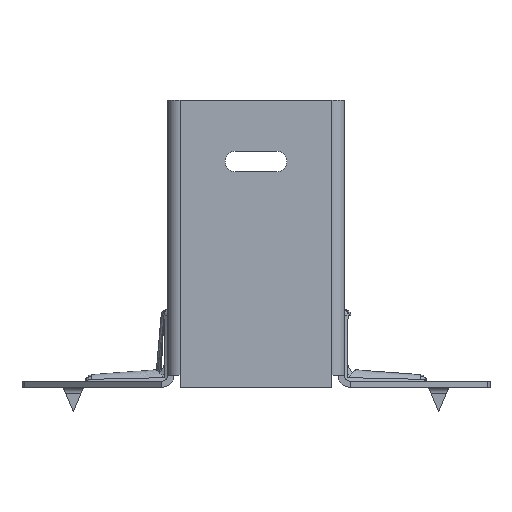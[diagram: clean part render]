
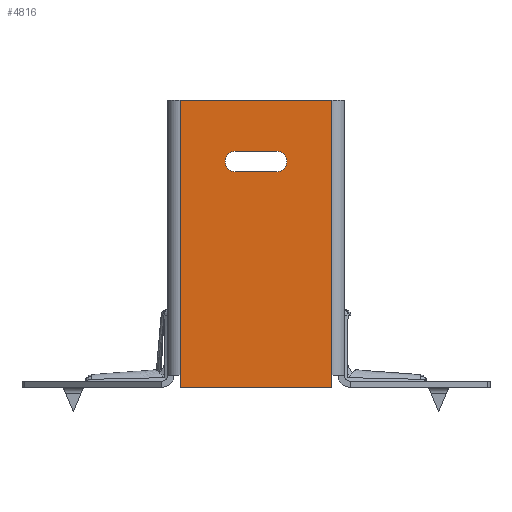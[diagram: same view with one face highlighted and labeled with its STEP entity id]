
A CAD part, front view. The second image highlights one B-rep face of the part: STEP entity #4816.
In plain terms, the highlighted planar face has unit normal (0, -1, 0).
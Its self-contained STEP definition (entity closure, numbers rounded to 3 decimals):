
#43 = ORIENTED_EDGE ( 'NONE', *, *, #26548, .F. ) ;
#125 = CARTESIAN_POINT ( 'NONE',  ( 18.5, -55.75, 38. ) ) ;
#126 = VERTEX_POINT ( 'NONE', #13253 ) ;
#431 = ORIENTED_EDGE ( 'NONE', *, *, #6647, .F. ) ;
#569 = CARTESIAN_POINT ( 'NONE',  ( -10., -55.75, 38. ) ) ;
#716 = EDGE_CURVE ( 'NONE', #2764, #23691, #18921, .T. ) ;
#862 = AXIS2_PLACEMENT_3D ( 'NONE', #11334, #6828, #2756 ) ;
#1087 = EDGE_CURVE ( 'NONE', #16044, #8542, #16107, .T. ) ;
#1426 = CARTESIAN_POINT ( 'NONE',  ( -10., -55.75, -32. ) ) ;
#1943 = LINE ( 'NONE', #2049, #18049 ) ;
#2049 = CARTESIAN_POINT ( 'NONE',  ( -10., -55.75, 20.5 ) ) ;
#2498 = AXIS2_PLACEMENT_3D ( 'NONE', #14911, #21258, #3601 ) ;
#2756 = DIRECTION ( 'NONE',  ( 1., 0., 0. ) ) ;
#2764 = VERTEX_POINT ( 'NONE', #9063 ) ;
#3601 = DIRECTION ( 'NONE',  ( 1., 0., 0. ) ) ;
#3771 = CARTESIAN_POINT ( 'NONE',  ( -18.5, -55.75, -32. ) ) ;
#4185 = ORIENTED_EDGE ( 'NONE', *, *, #1087, .F. ) ;
#4249 = VECTOR ( 'NONE', #8463, 1000. ) ;
#4342 = ORIENTED_EDGE ( 'NONE', *, *, #26890, .F. ) ;
#4789 = EDGE_CURVE ( 'NONE', #21484, #10904, #19532, .T. ) ;
#4816 = ADVANCED_FACE ( 'NONE', ( #13913, #12516 ), #15554, .F. ) ;
#5296 = AXIS2_PLACEMENT_3D ( 'NONE', #23957, #24157, #8121 ) ;
#6437 = CARTESIAN_POINT ( 'NONE',  ( 5., -55.75, 25.5 ) ) ;
#6633 = CARTESIAN_POINT ( 'NONE',  ( 18.5, -55.75, 3. ) ) ;
#6647 = EDGE_CURVE ( 'NONE', #8542, #23020, #1943, .T. ) ;
#6828 = DIRECTION ( 'NONE',  ( 0., 1., 0. ) ) ;
#6944 = CARTESIAN_POINT ( 'NONE',  ( 18.5, -55.75, 3. ) ) ;
#7250 = VECTOR ( 'NONE', #22097, 1000. ) ;
#7524 = CARTESIAN_POINT ( 'NONE',  ( -18.5, -55.75, 3. ) ) ;
#7800 = EDGE_CURVE ( 'NONE', #16499, #2764, #26761, .T. ) ;
#7916 = DIRECTION ( 'NONE',  ( 0., 0., 1. ) ) ;
#8121 = DIRECTION ( 'NONE',  ( -1., 0., 0. ) ) ;
#8463 = DIRECTION ( 'NONE',  ( -1., 0., 0. ) ) ;
#8542 = VERTEX_POINT ( 'NONE', #14425 ) ;
#9063 = CARTESIAN_POINT ( 'NONE',  ( -18.5, -55.75, -29. ) ) ;
#10167 = LINE ( 'NONE', #25967, #4249 ) ;
#10491 = DIRECTION ( 'NONE',  ( -1., 0., 0. ) ) ;
#10904 = VERTEX_POINT ( 'NONE', #23931 ) ;
#10980 = VECTOR ( 'NONE', #25350, 1000. ) ;
#11334 = CARTESIAN_POINT ( 'NONE',  ( -10., -55.75, 3. ) ) ;
#12516 = FACE_BOUND ( 'NONE', #27655, .T. ) ;
#12577 = EDGE_CURVE ( 'NONE', #26084, #16044, #10167, .T. ) ;
#13253 = CARTESIAN_POINT ( 'NONE',  ( 18.5, -55.75, -32. ) ) ;
#13913 = FACE_OUTER_BOUND ( 'NONE', #20240, .T. ) ;
#14425 = CARTESIAN_POINT ( 'NONE',  ( -5., -55.75, 20.5 ) ) ;
#14480 = CARTESIAN_POINT ( 'NONE',  ( -18.5, -55.75, 3. ) ) ;
#14858 = VECTOR ( 'NONE', #7916, 1000. ) ;
#14911 = CARTESIAN_POINT ( 'NONE',  ( -5., -55.75, 23. ) ) ;
#14989 = ORIENTED_EDGE ( 'NONE', *, *, #7800, .F. ) ;
#15554 = PLANE ( 'NONE',  #862 ) ;
#16044 = VERTEX_POINT ( 'NONE', #20488 ) ;
#16107 = CIRCLE ( 'NONE', #2498, 2.5 ) ;
#16446 = DIRECTION ( 'NONE',  ( 0., 0., -1. ) ) ;
#16499 = VERTEX_POINT ( 'NONE', #3771 ) ;
#17043 = CIRCLE ( 'NONE', #5296, 2.5 ) ;
#18049 = VECTOR ( 'NONE', #26574, 1000. ) ;
#18858 = ORIENTED_EDGE ( 'NONE', *, *, #716, .F. ) ;
#18921 = LINE ( 'NONE', #7524, #26966 ) ;
#19016 = ORIENTED_EDGE ( 'NONE', *, *, #28906, .F. ) ;
#19024 = CARTESIAN_POINT ( 'NONE',  ( -18.5, -55.75, 38. ) ) ;
#19413 = LINE ( 'NONE', #1426, #25003 ) ;
#19532 = LINE ( 'NONE', #6633, #7250 ) ;
#20240 = EDGE_LOOP ( 'NONE', ( #4342, #24493, #19016, #18858, #14989, #43 ) ) ;
#20381 = CARTESIAN_POINT ( 'NONE',  ( 5., -55.75, 20.5 ) ) ;
#20400 = ORIENTED_EDGE ( 'NONE', *, *, #12577, .F. ) ;
#20488 = CARTESIAN_POINT ( 'NONE',  ( -5., -55.75, 25.5 ) ) ;
#21258 = DIRECTION ( 'NONE',  ( 0., -1., 0. ) ) ;
#21484 = VERTEX_POINT ( 'NONE', #125 ) ;
#22097 = DIRECTION ( 'NONE',  ( 0., 0., -1. ) ) ;
#22161 = EDGE_CURVE ( 'NONE', #23020, #26084, #17043, .T. ) ;
#23020 = VERTEX_POINT ( 'NONE', #20381 ) ;
#23691 = VERTEX_POINT ( 'NONE', #19024 ) ;
#23931 = CARTESIAN_POINT ( 'NONE',  ( 18.5, -55.75, -29. ) ) ;
#23957 = CARTESIAN_POINT ( 'NONE',  ( 5., -55.75, 23. ) ) ;
#24157 = DIRECTION ( 'NONE',  ( 0., -1., 0. ) ) ;
#24493 = ORIENTED_EDGE ( 'NONE', *, *, #4789, .F. ) ;
#25003 = VECTOR ( 'NONE', #10491, 1000. ) ;
#25350 = DIRECTION ( 'NONE',  ( 1., 0., 0. ) ) ;
#25967 = CARTESIAN_POINT ( 'NONE',  ( -10., -55.75, 25.5 ) ) ;
#26084 = VERTEX_POINT ( 'NONE', #6437 ) ;
#26387 = LINE ( 'NONE', #6944, #28134 ) ;
#26548 = EDGE_CURVE ( 'NONE', #126, #16499, #19413, .T. ) ;
#26574 = DIRECTION ( 'NONE',  ( 1., 0., 0. ) ) ;
#26761 = LINE ( 'NONE', #14480, #14858 ) ;
#26890 = EDGE_CURVE ( 'NONE', #10904, #126, #26387, .T. ) ;
#26966 = VECTOR ( 'NONE', #27496, 1000. ) ;
#27496 = DIRECTION ( 'NONE',  ( 0., 0., 1. ) ) ;
#27525 = ORIENTED_EDGE ( 'NONE', *, *, #22161, .F. ) ;
#27655 = EDGE_LOOP ( 'NONE', ( #4185, #20400, #27525, #431 ) ) ;
#28134 = VECTOR ( 'NONE', #16446, 1000. ) ;
#28504 = LINE ( 'NONE', #569, #10980 ) ;
#28906 = EDGE_CURVE ( 'NONE', #23691, #21484, #28504, .T. ) ;
